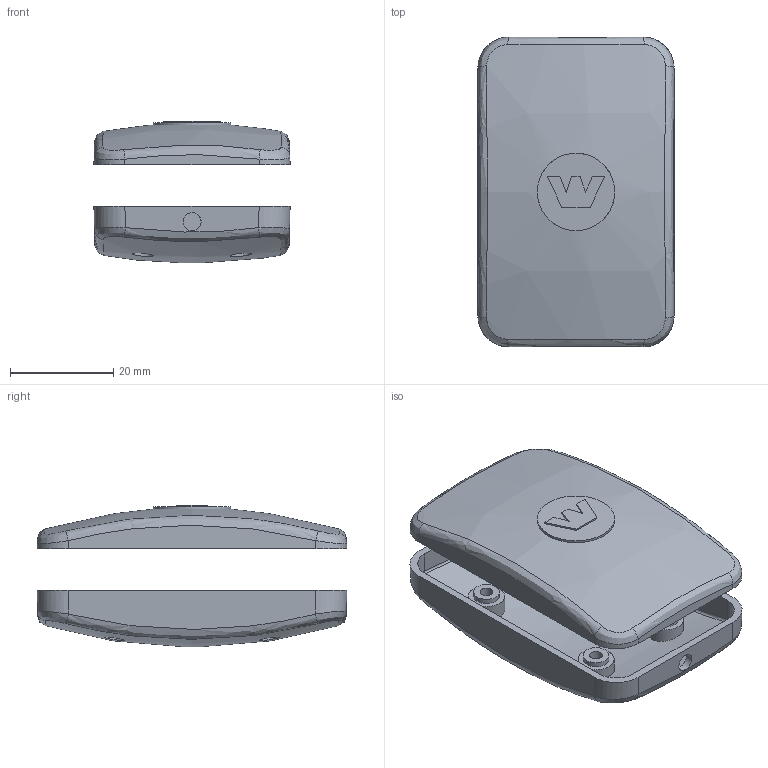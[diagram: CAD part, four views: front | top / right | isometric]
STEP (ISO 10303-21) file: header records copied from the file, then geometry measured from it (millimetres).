
FILE_DESCRIPTION(/* description */ (''),/* implementation_level */ '2;1');
FILE_NAME(/* name */ 'cp.stp',/* time_stamp */ '2019-04-21T15:52:15+08:00',/* author */ (''),/* organization */ (''),/* preprocessor_version */ 'ST-DEVELOPER v16',/* originating_system */ 'SIEMENS PLM Software NX 10.0',/* authorisation */ '');
FILE_SCHEMA (('AUTOMOTIVE_DESIGN { 1 0 10303 214 3 1 1 1 }'));
Length unit declared in the file: millimetre
Products named in the file (1): Admi15206EE0avlh
Bounding box: 38 x 60 x 27.5 mm (x, y, z)
Volume: 9438.7 mm3; surface area: 13438.3 mm2
Topology: 2 solids, 2 shells, 133 faces, 310 edges, 205 vertices
Faces by surface type: plane 50, bspline 44, cylinder 38, sphere 1
Full cylindrical faces by diameter (mm): 1.5 x4, 2.5 x4, 3.5 x1, 4 x8, 5 x4, 15 x1
Entity records: 6587 total; most frequent: CARTESIAN_POINT 4000, ORIENTED_EDGE 534, DIRECTION 416, EDGE_CURVE 267, EDGE_LOOP 194, VERTEX_POINT 189, AXIS2_PLACEMENT_3D 169, ADVANCED_FACE 133
